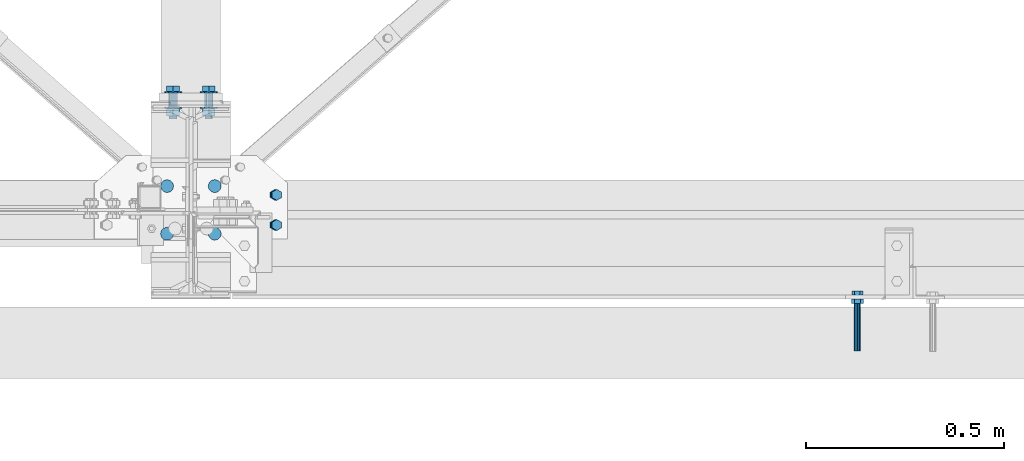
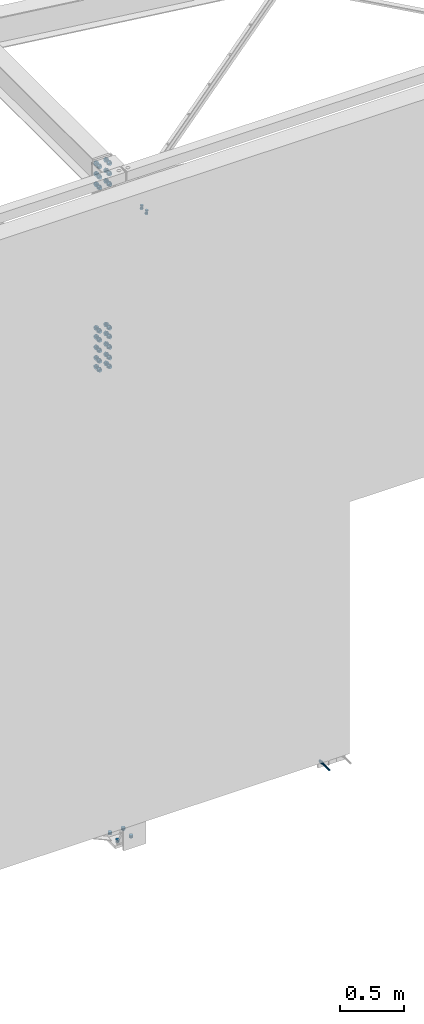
# One storey, part 125 of 3134: 5 mechanical fasteners, 4 elements without a shape of their own.
"""IFC2X3 building model written with IfcOpenShell, lengths in millimetres."""

from ifc_helpers import new_model, si_unit, frame, origin_with_axes, place, context, subcontext, project, spatial, faceted_brep, source, transform, mapped, material, type_object, element, aggregate, save


model = new_model("IFC2X3")

# Units and contexts
model_context = context("Model", 3, precision=1e-05, world=origin_with_axes())
body_context = subcontext(model_context, "Body", "Model", "MODEL_VIEW")
ifc_project = project(units=[si_unit("LENGTHUNIT", "METRE", prefix="MILLI"), si_unit("AREAUNIT", "SQUARE_METRE"), si_unit("VOLUMEUNIT", "CUBIC_METRE"), si_unit("MASSUNIT", "GRAM", prefix="KILO"), si_unit("TIMEUNIT", "SECOND"), si_unit("PLANEANGLEUNIT", "RADIAN"), si_unit("SOLIDANGLEUNIT", "STERADIAN"), si_unit("THERMODYNAMICTEMPERATUREUNIT", "DEGREE_CELSIUS"), si_unit("LUMINOUSINTENSITYUNIT", "LUMEN")], contexts=[model_context])

# Site, building, storey
site_placement = place(None, origin_with_axes())
site = spatial("IfcSite", under=ifc_project, at=site_placement, CompositionType="ELEMENT")
building_placement = place(site_placement, origin_with_axes())
building = spatial("IfcBuilding", under=site, at=building_placement, Name="Undefined", CompositionType="ELEMENT")
storey_placement = place(building_placement, origin_with_axes())
storey = spatial("IfcBuildingStorey", under=building, at=storey_placement, Name="Undefined", CompositionType="ELEMENT", Elevation=0.0)

# Assembly, mechanical fastener
assembly_1_placement = place(storey_placement, origin_with_axes())
assembly_1 = element("IfcElementAssembly", 1, at=assembly_1_placement, inside=storey, Name="UPN180", AssemblyPlace="NOTDEFINED", PredefinedType="RIGID_FRAME")
ifc_material_1 = material(Name="HILTI-HSA")
mechanical_fastener_type = type_object("IfcMechanicalFastenerType", Name="Bolt assembly")
shared_shape_1 = source(origin_with_axes(), body_context, "Body", "Brep", [
    faceted_brep([(13.856406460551, -20.56, 0.0), (6.92820323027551, -20.56, 12.0), (-6.92820323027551, -20.56, 12.0), (-13.856406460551, -20.56, 1.69692038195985e-15), (-6.92820323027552, -20.56, -12.0), (6.9282032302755, -20.56, -12.0), (6.9282032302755, -10.0, -12.0), (-6.92820323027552, -10.0, -12.0), (-13.856406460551, -10.0, 1.69692038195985e-15), (-6.92820323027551, -10.0, 12.0), (6.92820323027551, -10.0, 12.0), (13.856406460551, -10.0, 0.0), (8.0, -10.0, 0.0), (6.92820323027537, -10.0, 4.00000000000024), (3.99999999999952, -10.0, 6.92820323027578), (-8.29068785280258e-13, -10.0, 8.0), (-4.00000000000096, -10.0, 6.92820323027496), (-6.9282032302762, -10.0, 3.99999999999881), (-8.0, -10.0, -1.65813757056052e-12), (-6.92820323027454, -10.0, -4.00000000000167), (-3.99999999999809, -10.0, -6.92820323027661), (2.47832457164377e-12, -10.0, -8.0), (4.00000000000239, -10.0, -6.92820323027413), (6.92820323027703, -10.0, -3.99999999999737), (6.92820323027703, 130.0, -3.99999999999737), (4.00000000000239, 130.0, -6.92820323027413), (2.47832457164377e-12, 130.0, -8.0), (-3.99999999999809, 130.0, -6.92820323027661), (-6.92820323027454, 130.0, -4.00000000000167), (-8.0, 130.0, -1.65813757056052e-12), (-6.9282032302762, 130.0, 3.99999999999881), (-4.00000000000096, 130.0, 6.92820323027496), (-8.29068785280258e-13, 130.0, 8.0), (3.99999999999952, 130.0, 6.92820323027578), (6.92820323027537, 130.0, 4.00000000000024), (8.0, 130.0, 0.0), (15.3344231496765, 7.105427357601e-15, 0.0), (7.66721157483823, 7.105427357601e-15, 13.28), (-7.66721157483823, 7.105427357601e-15, 13.28), (-15.3344231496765, 7.105427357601e-15, 1.87792522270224e-15), (-7.66721157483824, 7.105427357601e-15, -13.28), (7.66721157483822, 7.105427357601e-15, -13.28), (7.66721157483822, 10.56, -13.28), (-7.66721157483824, 10.56, -13.28), (-15.3344231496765, 10.56, 1.87792522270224e-15), (-7.66721157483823, 10.56, 13.28), (7.66721157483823, 10.56, 13.28), (15.3344231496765, 10.56, 0.0)], [[[0, 1, 2, 3, 4, 5]], [[6, 7, 8, 9, 10, 11]], [[0, 11, 10, 1]], [[1, 10, 9, 2]], [[2, 9, 8, 3]], [[3, 8, 7, 4]], [[4, 7, 6, 5]], [[5, 6, 11, 0]], [[12, 13, 14, 15, 16, 17, 18, 19, 20, 21, 22, 23]], [[24, 25, 26, 27, 28, 29, 30, 31, 32, 33, 34, 35]], [[12, 35, 34, 13]], [[13, 34, 33, 14]], [[14, 33, 32, 15]], [[15, 32, 31, 16]], [[16, 31, 30, 17]], [[17, 30, 29, 18]], [[18, 29, 28, 19]], [[19, 28, 27, 20]], [[20, 27, 26, 21]], [[21, 26, 25, 22]], [[22, 25, 24, 23]], [[23, 24, 35, 12]], [[36, 37, 38, 39, 40, 41]], [[42, 43, 44, 45, 46, 47]], [[36, 47, 46, 37]], [[37, 46, 45, 38]], [[38, 45, 44, 39]], [[39, 44, 43, 40]], [[40, 43, 42, 41]], [[41, 42, 47, 36]]]),
    faceted_brep([(9.0, -10.0, 0.0), (7.79422863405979, -10.0, 4.50000000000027), (4.49999999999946, -10.0, 7.79422863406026), (-9.3270238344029e-13, -10.0, 9.0), (-4.50000000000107, -10.0, 7.79422863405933), (-7.79422863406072, -10.0, 4.49999999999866), (-9.0, -10.0, -1.86540476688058e-12), (-7.79422863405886, -10.0, -4.50000000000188), (-4.49999999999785, -10.0, -7.79422863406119), (2.78811514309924e-12, -10.0, -9.0), (4.50000000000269, -10.0, -7.7942286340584), (7.79422863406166, -10.0, -4.49999999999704), (7.79422863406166, 0.100000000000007, -4.49999999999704), (4.50000000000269, 0.100000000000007, -7.7942286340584), (2.78811514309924e-12, 0.100000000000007, -9.0), (-4.49999999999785, 0.100000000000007, -7.79422863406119), (-7.79422863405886, 0.100000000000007, -4.50000000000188), (-9.0, 0.100000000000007, -1.86540476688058e-12), (-7.79422863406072, 0.100000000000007, 4.49999999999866), (-4.50000000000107, 0.100000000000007, 7.79422863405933), (-9.3270238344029e-13, 0.100000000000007, 9.0), (4.49999999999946, 0.100000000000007, 7.79422863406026), (7.79422863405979, 0.100000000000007, 4.50000000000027), (9.0, 0.100000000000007, 0.0)], [[[0, 1, 2, 3, 4, 5, 6, 7, 8, 9, 10, 11]], [[12, 13, 14, 15, 16, 17, 18, 19, 20, 21, 22, 23]], [[0, 23, 22, 1]], [[1, 22, 21, 2]], [[2, 21, 20, 3]], [[3, 20, 19, 4]], [[4, 19, 18, 5]], [[5, 18, 17, 6]], [[6, 17, 16, 7]], [[7, 16, 15, 8]], [[8, 15, 14, 9]], [[9, 14, 13, 10]], [[10, 13, 12, 11]], [[11, 12, 23, 0]]]),
])
mechanical_fastener_1_placement = place(assembly_1_placement, frame((57555.0, -225.0, -150.0), z_axis=(0.0, 0.0, -1.0), x_axis=(1.0, 0.0, 0.0)))
mechanical_fastener_1 = element("IfcMechanicalFastener", 2, at=mechanical_fastener_1_placement, type_object=mechanical_fastener_type, material=ifc_material_1, Name="Bolt assembly", NominalDiameter=16.0, NominalLength=140.0, context=body_context, shape_type="MappedRepresentation", body=[
    mapped(shared_shape_1, transform((0.0, 0.0, 0.0))),
])
aggregate(assembly_1, [mechanical_fastener_1])

# Assembly, mechanical fasteners
assembly_2_placement = place(storey_placement, origin_with_axes())
assembly_2 = element("IfcElementAssembly", 3, at=assembly_2_placement, inside=storey, Name="300", AssemblyPlace="NOTDEFINED", PredefinedType="RIGID_FRAME")
ifc_material_2 = material(Name="HR10.9")
shared_shape_2 = source(origin_with_axes(), body_context, "Body", "Brep", [
    faceted_brep([(18.475208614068, -17.599999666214, 0.0), (9.23760430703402, -17.599999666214, 16.0), (-9.23760430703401, -17.599999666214, 16.0), (-18.475208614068, -17.599999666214, 2.2625605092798e-15), (-9.23760430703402, -17.599999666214, -16.0), (9.237604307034, -17.599999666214, -16.0), (9.237604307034, -3.70000004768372, -16.0), (-9.23760430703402, -3.70000004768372, -16.0), (-18.475208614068, -3.70000004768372, 2.2625605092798e-15), (-9.23760430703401, -3.70000004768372, 16.0), (9.23760430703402, -3.70000004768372, 16.0), (18.475208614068, -3.70000004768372, 0.0), (10.0, -3.70000004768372, 0.0), (8.66025403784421, -3.70000004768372, 5.0000000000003), (4.9999999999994, -3.70000004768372, 8.66025403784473), (-1.03633598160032e-12, -3.70000004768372, 10.0), (-5.00000000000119, -3.70000004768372, 8.6602540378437), (-8.66025403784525, -3.70000004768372, 4.99999999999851), (-10.0, -3.70000004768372, -2.07267196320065e-12), (-8.66025403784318, -3.70000004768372, -5.00000000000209), (-4.99999999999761, -3.70000004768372, -8.66025403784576), (3.09790571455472e-12, -3.70000004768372, -10.0), (5.00000000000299, -3.70000004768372, -8.66025403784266), (8.66025403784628, -3.70000004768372, -4.99999999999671), (8.66025403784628, 66.2999999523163, -4.99999999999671), (5.00000000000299, 66.2999999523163, -8.66025403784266), (3.09790571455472e-12, 66.2999999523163, -10.0), (-4.99999999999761, 66.2999999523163, -8.66025403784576), (-8.66025403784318, 66.2999999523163, -5.00000000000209), (-10.0, 66.2999999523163, -2.07267196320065e-12), (-8.66025403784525, 66.2999999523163, 4.99999999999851), (-5.00000000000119, 66.2999999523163, 8.6602540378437), (-1.03633598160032e-12, 66.2999999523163, 10.0), (4.9999999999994, 66.2999999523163, 8.66025403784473), (8.66025403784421, 66.2999999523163, 5.0000000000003), (10.0, 66.2999999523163, 0.0), (22.0, -3.70000004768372, 0.0), (19.0525588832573, -3.70000004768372, 11.0000000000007), (10.9999999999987, -3.70000004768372, 19.0525588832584), (-2.27993915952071e-12, -3.70000004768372, 22.0), (-11.0000000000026, -3.70000004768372, 19.0525588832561), (-19.0525588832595, -3.70000004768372, 10.9999999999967), (-22.0, -3.70000004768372, -4.55987831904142e-12), (-19.052558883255, -3.70000004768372, -11.0000000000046), (-10.9999999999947, -3.70000004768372, -19.0525588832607), (6.81539257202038e-12, -3.70000004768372, -22.0), (11.0000000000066, -3.70000004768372, -19.0525588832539), (19.0525588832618, -3.70000004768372, -10.9999999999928), (19.0525588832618, 0.0, -10.9999999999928), (11.0000000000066, 0.0, -19.0525588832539), (6.81539257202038e-12, 0.0, -22.0), (-10.9999999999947, 0.0, -19.0525588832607), (-19.052558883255, 0.0, -11.0000000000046), (-22.0, 0.0, -4.55987831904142e-12), (-19.0525588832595, 0.0, 10.9999999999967), (-11.0000000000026, 0.0, 19.0525588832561), (-2.27993915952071e-12, 0.0, 22.0), (10.9999999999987, 0.0, 19.0525588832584), (19.0525588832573, 0.0, 11.0000000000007), (22.0, 0.0, 0.0), (22.0, 36.0, 0.0), (19.0525588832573, 36.0, 11.0000000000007), (10.9999999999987, 36.0, 19.0525588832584), (-2.27993915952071e-12, 36.0, 22.0), (-11.0000000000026, 36.0, 19.0525588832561), (-19.0525588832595, 36.0, 10.9999999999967), (-22.0, 36.0, -4.55987831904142e-12), (-19.052558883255, 36.0, -11.0000000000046), (-10.9999999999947, 36.0, -19.0525588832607), (6.81539257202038e-12, 36.0, -22.0), (11.0000000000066, 36.0, -19.0525588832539), (19.0525588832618, 36.0, -10.9999999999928), (19.0525588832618, 39.7000000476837, -10.9999999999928), (11.0000000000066, 39.7000000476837, -19.0525588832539), (6.81539257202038e-12, 39.7000000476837, -22.0), (-10.9999999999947, 39.7000000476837, -19.0525588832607), (-19.052558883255, 39.7000000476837, -11.0000000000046), (-22.0, 39.7000000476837, -4.55987831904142e-12), (-19.0525588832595, 39.7000000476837, 10.9999999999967), (-11.0000000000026, 39.7000000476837, 19.0525588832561), (-2.27993915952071e-12, 39.7000000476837, 22.0), (10.9999999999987, 39.7000000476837, 19.0525588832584), (19.0525588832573, 39.7000000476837, 11.0000000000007), (22.0, 39.7000000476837, 0.0), (18.475208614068, 39.7000000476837, 0.0), (9.23760430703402, 39.7000000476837, 16.0), (-9.23760430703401, 39.7000000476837, 16.0), (-18.475208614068, 39.7000000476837, 2.2625605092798e-15), (-9.23760430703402, 39.7000000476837, -16.0), (9.237604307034, 39.7000000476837, -16.0), (9.237604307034, 58.2499992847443, -16.0), (-9.23760430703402, 58.2499992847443, -16.0), (-18.475208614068, 58.2499992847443, 2.2625605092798e-15), (-9.23760430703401, 58.2499992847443, 16.0), (9.23760430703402, 58.2499992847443, 16.0), (18.475208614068, 58.2499992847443, 0.0)], [[[0, 1, 2, 3, 4, 5]], [[6, 7, 8, 9, 10, 11]], [[0, 11, 10, 1]], [[1, 10, 9, 2]], [[2, 9, 8, 3]], [[3, 8, 7, 4]], [[4, 7, 6, 5]], [[5, 6, 11, 0]], [[12, 13, 14, 15, 16, 17, 18, 19, 20, 21, 22, 23]], [[24, 25, 26, 27, 28, 29, 30, 31, 32, 33, 34, 35]], [[12, 35, 34, 13]], [[13, 34, 33, 14]], [[14, 33, 32, 15]], [[15, 32, 31, 16]], [[16, 31, 30, 17]], [[17, 30, 29, 18]], [[18, 29, 28, 19]], [[19, 28, 27, 20]], [[20, 27, 26, 21]], [[21, 26, 25, 22]], [[22, 25, 24, 23]], [[23, 24, 35, 12]], [[36, 37, 38, 39, 40, 41, 42, 43, 44, 45, 46, 47]], [[48, 49, 50, 51, 52, 53, 54, 55, 56, 57, 58, 59]], [[36, 59, 58, 37]], [[37, 58, 57, 38]], [[38, 57, 56, 39]], [[39, 56, 55, 40]], [[40, 55, 54, 41]], [[41, 54, 53, 42]], [[42, 53, 52, 43]], [[43, 52, 51, 44]], [[44, 51, 50, 45]], [[45, 50, 49, 46]], [[46, 49, 48, 47]], [[47, 48, 59, 36]], [[60, 61, 62, 63, 64, 65, 66, 67, 68, 69, 70, 71]], [[72, 73, 74, 75, 76, 77, 78, 79, 80, 81, 82, 83]], [[60, 83, 82, 61]], [[61, 82, 81, 62]], [[62, 81, 80, 63]], [[63, 80, 79, 64]], [[64, 79, 78, 65]], [[65, 78, 77, 66]], [[66, 77, 76, 67]], [[67, 76, 75, 68]], [[68, 75, 74, 69]], [[69, 74, 73, 70]], [[70, 73, 72, 71]], [[71, 72, 83, 60]], [[84, 85, 86, 87, 88, 89]], [[90, 91, 92, 93, 94, 95]], [[84, 95, 94, 85]], [[85, 94, 93, 86]], [[86, 93, 92, 87]], [[87, 92, 91, 88]], [[88, 91, 90, 89]], [[89, 90, 95, 84]]]),
    faceted_brep([(11.0, 19.9, 0.0), (9.52627944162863, 19.9, 5.50000000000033), (5.49999999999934, 19.9, 9.5262794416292), (-1.13996957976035e-12, 19.9, 11.0), (-5.50000000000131, 19.9, 9.52627944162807), (-9.52627944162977, 19.9, 5.49999999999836), (-11.0, 19.9, -2.27993915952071e-12), (-9.5262794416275, 19.9, -5.5000000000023), (-5.49999999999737, 19.9, -9.52627944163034), (3.40769628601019e-12, 19.9, -11.0), (5.50000000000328, 19.9, -9.52627944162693), (9.52627944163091, 19.9, -5.49999999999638), (9.52627944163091, 36.0, -5.49999999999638), (5.50000000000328, 36.0, -9.52627944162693), (3.40769628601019e-12, 36.0, -11.0), (-5.49999999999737, 36.0, -9.52627944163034), (-9.5262794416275, 36.0, -5.5000000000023), (-11.0, 36.0, -2.27993915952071e-12), (-9.52627944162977, 36.0, 5.49999999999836), (-5.50000000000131, 36.0, 9.52627944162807), (-1.13996957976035e-12, 36.0, 11.0), (5.49999999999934, 36.0, 9.5262794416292), (9.52627944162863, 36.0, 5.50000000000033), (11.0, 36.0, 0.0), (11.0, 0.0999999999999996, 0.0), (9.52627944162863, 0.0999999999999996, 5.50000000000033), (5.49999999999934, 0.0999999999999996, 9.5262794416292), (-1.13996957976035e-12, 0.0999999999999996, 11.0), (-5.50000000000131, 0.0999999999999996, 9.52627944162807), (-9.52627944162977, 0.0999999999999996, 5.49999999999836), (-11.0, 0.0999999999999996, -2.27993915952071e-12), (-9.5262794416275, 0.0999999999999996, -5.5000000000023), (-5.49999999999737, 0.0999999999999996, -9.52627944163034), (3.40769628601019e-12, 0.0999999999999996, -11.0), (5.50000000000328, 0.0999999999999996, -9.52627944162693), (9.52627944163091, 0.0999999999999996, -5.49999999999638), (9.52627944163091, 20.1, -5.49999999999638), (5.50000000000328, 20.1, -9.52627944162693), (3.40769628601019e-12, 20.1, -11.0), (-5.49999999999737, 20.1, -9.52627944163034), (-9.5262794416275, 20.1, -5.5000000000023), (-11.0, 20.1, -2.27993915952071e-12), (-9.52627944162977, 20.1, 5.49999999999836), (-5.50000000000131, 20.1, 9.52627944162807), (-1.13996957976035e-12, 20.1, 11.0), (5.49999999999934, 20.1, 9.5262794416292), (9.52627944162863, 20.1, 5.50000000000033), (11.0, 20.1, 0.0)], [[[0, 1, 2, 3, 4, 5, 6, 7, 8, 9, 10, 11]], [[12, 13, 14, 15, 16, 17, 18, 19, 20, 21, 22, 23]], [[0, 23, 22, 1]], [[1, 22, 21, 2]], [[2, 21, 20, 3]], [[3, 20, 19, 4]], [[4, 19, 18, 5]], [[5, 18, 17, 6]], [[6, 17, 16, 7]], [[7, 16, 15, 8]], [[8, 15, 14, 9]], [[9, 14, 13, 10]], [[10, 13, 12, 11]], [[11, 12, 23, 0]], [[24, 25, 26, 27, 28, 29, 30, 31, 32, 33, 34, 35]], [[36, 37, 38, 39, 40, 41, 42, 43, 44, 45, 46, 47]], [[24, 47, 46, 25]], [[25, 46, 45, 26]], [[26, 45, 44, 27]], [[27, 44, 43, 28]], [[28, 43, 42, 29]], [[29, 42, 41, 30]], [[30, 41, 40, 31]], [[31, 40, 39, 32]], [[32, 39, 38, 33]], [[33, 38, 37, 34]], [[34, 37, 36, 35]], [[35, 36, 47, 24]]]),
])
mechanical_fastener_2_placement = place(assembly_2_placement, frame((55875.0, 295.0, 5841.5), z_axis=(-1.0, 0.0, 0.0), x_axis=(0.0, 0.0, -1.0)))
mechanical_fastener_2 = element("IfcMechanicalFastener", 4, at=mechanical_fastener_2_placement, type_object=mechanical_fastener_type, material=ifc_material_2, Name="Bolt assembly", NominalDiameter=20.0, NominalLength=70.0, context=body_context, shape_type="MappedRepresentation", body=[
    mapped(shared_shape_2, transform((0.0, 0.0, -45.0))),
    mapped(shared_shape_2, transform((100.0, 0.0, -45.0))),
    mapped(shared_shape_2, transform((200.0, 0.0, -45.0))),
    mapped(shared_shape_2, transform((0.0, 0.0, 45.0))),
    mapped(shared_shape_2, transform((100.0, 0.0, 45.0))),
    mapped(shared_shape_2, transform((200.0, 0.0, 45.0))),
])
mechanical_fastener_3_placement = place(assembly_2_placement, frame((55875.0, 295.0, 4273.5), z_axis=(-1.0, 0.0, 0.0), x_axis=(0.0, 0.0, -1.0)))
mechanical_fastener_3 = element("IfcMechanicalFastener", 5, at=mechanical_fastener_3_placement, type_object=mechanical_fastener_type, material=ifc_material_2, Name="Bolt assembly", NominalDiameter=20.0, NominalLength=70.0, context=body_context, shape_type="MappedRepresentation", body=[
    mapped(shared_shape_2, transform((0.0, 0.0, -45.0))),
    mapped(shared_shape_2, transform((85.0, 0.0, -45.0))),
    mapped(shared_shape_2, transform((185.0, 0.0, -45.0))),
    mapped(shared_shape_2, transform((285.0, 0.0, -45.0))),
    mapped(shared_shape_2, transform((370.0, 0.0, -45.0))),
    mapped(shared_shape_2, transform((0.0, 0.0, 45.0))),
    mapped(shared_shape_2, transform((85.0, 0.0, 45.0))),
    mapped(shared_shape_2, transform((185.0, 0.0, 45.0))),
    mapped(shared_shape_2, transform((285.0, 0.0, 45.0))),
    mapped(shared_shape_2, transform((370.0, 0.0, 45.0))),
])
aggregate(assembly_2, [mechanical_fastener_2, mechanical_fastener_3])

# Assembly, mechanical fastener
assembly_3_placement = place(storey_placement, origin_with_axes())
assembly_3 = element("IfcElementAssembly", 6, at=assembly_3_placement, inside=storey, Name="300", AssemblyPlace="NOTDEFINED", PredefinedType="RIGID_FRAME")
ifc_material_3 = material(Name="8.8")
shared_shape_3 = source(origin_with_axes(), body_context, "Body", "Brep", [
    faceted_brep([(13.856406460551, -19.1964928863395, 0.0), (6.92820323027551, -19.1964928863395, 12.0), (-6.92820323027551, -19.1964928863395, 12.0), (-13.856406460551, -19.1964928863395, 1.69692038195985e-15), (-6.92820323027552, -19.1964928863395, -12.0), (6.9282032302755, -19.1964928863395, -12.0), (6.9282032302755, -9.19649288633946, -12.0), (-6.92820323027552, -9.19649288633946, -12.0), (-13.856406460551, -9.19649288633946, 1.69692038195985e-15), (-6.92820323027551, -9.19649288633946, 12.0), (6.92820323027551, -9.19649288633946, 12.0), (13.856406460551, -9.19649288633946, 0.0), (8.0, -9.19649288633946, 0.0), (6.92820323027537, -9.19649288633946, 4.00000000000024), (3.99999999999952, -9.19649288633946, 6.92820323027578), (-8.29068785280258e-13, -9.19649288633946, 8.0), (-4.00000000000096, -9.19649288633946, 6.92820323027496), (-6.9282032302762, -9.19649288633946, 3.99999999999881), (-8.0, -9.19649288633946, -1.65813757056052e-12), (-6.92820323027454, -9.19649288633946, -4.00000000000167), (-3.99999999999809, -9.19649288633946, -6.92820323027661), (2.47832457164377e-12, -9.19649288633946, -8.0), (4.00000000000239, -9.19649288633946, -6.92820323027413), (6.92820323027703, -9.19649288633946, -3.99999999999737), (6.92820323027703, 25.8035071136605, -3.99999999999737), (4.00000000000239, 25.8035071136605, -6.92820323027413), (2.47832457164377e-12, 25.8035071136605, -8.0), (-3.99999999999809, 25.8035071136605, -6.92820323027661), (-6.92820323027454, 25.8035071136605, -4.00000000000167), (-8.0, 25.8035071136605, -1.65813757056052e-12), (-6.9282032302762, 25.8035071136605, 3.99999999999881), (-4.00000000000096, 25.8035071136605, 6.92820323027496), (-8.29068785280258e-13, 25.8035071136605, 8.0), (3.99999999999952, 25.8035071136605, 6.92820323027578), (6.92820323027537, 25.8035071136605, 4.00000000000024), (8.0, 25.8035071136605, 0.0), (13.856406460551, 8.00313978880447, 0.0), (6.92820323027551, 8.00313978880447, 12.0), (-6.92820323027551, 8.00313978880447, 12.0), (-13.856406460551, 8.00313978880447, 1.69692038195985e-15), (-6.92820323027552, 8.00313978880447, -12.0), (6.9282032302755, 8.00313978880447, -12.0), (6.9282032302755, 21.0031397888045, -12.0), (-6.92820323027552, 21.0031397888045, -12.0), (-13.856406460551, 21.0031397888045, 1.69692038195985e-15), (-6.92820323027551, 21.0031397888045, 12.0), (6.92820323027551, 21.0031397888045, 12.0), (13.856406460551, 21.0031397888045, 0.0)], [[[0, 1, 2, 3, 4, 5]], [[6, 7, 8, 9, 10, 11]], [[0, 11, 10, 1]], [[1, 10, 9, 2]], [[2, 9, 8, 3]], [[3, 8, 7, 4]], [[4, 7, 6, 5]], [[5, 6, 11, 0]], [[12, 13, 14, 15, 16, 17, 18, 19, 20, 21, 22, 23]], [[24, 25, 26, 27, 28, 29, 30, 31, 32, 33, 34, 35]], [[12, 35, 34, 13]], [[13, 34, 33, 14]], [[14, 33, 32, 15]], [[15, 32, 31, 16]], [[16, 31, 30, 17]], [[17, 30, 29, 18]], [[18, 29, 28, 19]], [[19, 28, 27, 20]], [[20, 27, 26, 21]], [[21, 26, 25, 22]], [[22, 25, 24, 23]], [[23, 24, 35, 12]], [[36, 37, 38, 39, 40, 41]], [[42, 43, 44, 45, 46, 47]], [[36, 47, 46, 37]], [[37, 46, 45, 38]], [[38, 45, 44, 39]], [[39, 44, 43, 40]], [[40, 43, 42, 41]], [[41, 42, 47, 36]]]),
    faceted_brep([(9.0, -0.0968602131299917, 0.0), (7.79422863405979, -0.0968602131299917, 4.50000000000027), (4.49999999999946, -0.0968602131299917, 7.79422863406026), (-9.3270238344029e-13, -0.0968602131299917, 9.0), (-4.50000000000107, -0.0968602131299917, 7.79422863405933), (-7.79422863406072, -0.0968602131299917, 4.49999999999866), (-9.0, -0.0968602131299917, -1.86540476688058e-12), (-7.79422863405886, -0.0968602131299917, -4.50000000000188), (-4.49999999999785, -0.0968602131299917, -7.79422863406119), (2.78811514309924e-12, -0.0968602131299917, -9.0), (4.50000000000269, -0.0968602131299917, -7.7942286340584), (7.79422863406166, -0.0968602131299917, -4.49999999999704), (7.79422863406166, 8.00313978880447, -4.49999999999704), (4.50000000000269, 8.00313978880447, -7.7942286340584), (2.78811514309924e-12, 8.00313978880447, -9.0), (-4.49999999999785, 8.00313978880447, -7.79422863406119), (-7.79422863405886, 8.00313978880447, -4.50000000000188), (-9.0, 8.00313978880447, -1.86540476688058e-12), (-7.79422863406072, 8.00313978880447, 4.49999999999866), (-4.50000000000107, 8.00313978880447, 7.79422863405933), (-9.3270238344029e-13, 8.00313978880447, 9.0), (4.49999999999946, 8.00313978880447, 7.79422863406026), (7.79422863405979, 8.00313978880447, 4.50000000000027), (9.0, 8.00313978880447, 0.0), (9.0, -9.09649288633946, 0.0), (7.79422863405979, -9.09649288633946, 4.50000000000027), (4.49999999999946, -9.09649288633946, 7.79422863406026), (-9.3270238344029e-13, -9.09649288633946, 9.0), (-4.50000000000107, -9.09649288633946, 7.79422863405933), (-7.79422863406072, -9.09649288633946, 4.49999999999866), (-9.0, -9.09649288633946, -1.86540476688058e-12), (-7.79422863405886, -9.09649288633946, -4.50000000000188), (-4.49999999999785, -9.09649288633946, -7.79422863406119), (2.78811514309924e-12, -9.09649288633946, -9.0), (4.50000000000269, -9.09649288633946, -7.7942286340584), (7.79422863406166, -9.09649288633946, -4.49999999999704), (7.79422863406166, 0.103506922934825, -4.49999999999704), (4.50000000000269, 0.103506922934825, -7.7942286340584), (2.78811514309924e-12, 0.103506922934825, -9.0), (-4.49999999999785, 0.103506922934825, -7.79422863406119), (-7.79422863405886, 0.103506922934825, -4.50000000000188), (-9.0, 0.103506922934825, -1.86540476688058e-12), (-7.79422863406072, 0.103506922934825, 4.49999999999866), (-4.50000000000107, 0.103506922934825, 7.79422863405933), (-9.3270238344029e-13, 0.103506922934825, 9.0), (4.49999999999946, 0.103506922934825, 7.79422863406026), (7.79422863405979, 0.103506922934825, 4.50000000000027), (9.0, 0.103506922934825, 0.0)], [[[0, 1, 2, 3, 4, 5, 6, 7, 8, 9, 10, 11]], [[12, 13, 14, 15, 16, 17, 18, 19, 20, 21, 22, 23]], [[0, 23, 22, 1]], [[1, 22, 21, 2]], [[2, 21, 20, 3]], [[3, 20, 19, 4]], [[4, 19, 18, 5]], [[5, 18, 17, 6]], [[6, 17, 16, 7]], [[7, 16, 15, 8]], [[8, 15, 14, 9]], [[9, 14, 13, 10]], [[10, 13, 12, 11]], [[11, 12, 23, 0]], [[24, 25, 26, 27, 28, 29, 30, 31, 32, 33, 34, 35]], [[36, 37, 38, 39, 40, 41, 42, 43, 44, 45, 46, 47]], [[24, 47, 46, 25]], [[25, 46, 45, 26]], [[26, 45, 44, 27]], [[27, 44, 43, 28]], [[28, 43, 42, 29]], [[29, 42, 41, 30]], [[30, 41, 40, 31]], [[31, 40, 39, 32]], [[32, 39, 38, 33]], [[33, 38, 37, 34]], [[34, 37, 36, 35]], [[35, 36, 47, 24]]]),
])
mechanical_fastener_4_placement = place(assembly_3_placement, frame((56089.2248162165, 37.9995130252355, 5493.63063425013), z_axis=(0.992623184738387, 1.63108538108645e-05, -0.12124031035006), x_axis=(1.62000016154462e-05, -0.999999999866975, -1.90000018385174e-06)))
mechanical_fastener_4 = element("IfcMechanicalFastener", 7, at=mechanical_fastener_4_placement, type_object=mechanical_fastener_type, material=ifc_material_3, Name="Bolt assembly", NominalDiameter=16.0, NominalLength=35.0, context=body_context, shape_type="MappedRepresentation", body=[
    mapped(shared_shape_3, transform((0.0, 0.0, 0.0))),
    mapped(shared_shape_3, transform((76.0, 0.0, 0.0))),
])
aggregate(assembly_3, [mechanical_fastener_4])

assembly_4_placement = place(storey_placement, origin_with_axes())
assembly_4 = element("IfcElementAssembly", 8, at=assembly_4_placement, inside=storey, Name="IPE500", AssemblyPlace="NOTDEFINED", PredefinedType="RIGID_FRAME")
shared_shape_4 = source(origin_with_axes(), body_context, "Body", "Brep", [
    faceted_brep([(16.5, -25.0, 0.0), (14.289419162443, -25.0, 8.25000000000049), (8.24999999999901, -25.0, 14.2894191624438), (-1.70995436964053e-12, -25.0, 16.5), (-8.25000000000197, -25.0, 14.2894191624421), (-14.2894191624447, -25.0, 8.24999999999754), (-16.5, -25.0, -3.41990873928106e-12), (-14.2894191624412, -25.0, -8.25000000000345), (-8.24999999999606, -25.0, -14.2894191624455), (5.11154442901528e-12, -25.0, -16.5), (8.25000000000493, -25.0, -14.2894191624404), (14.2894191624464, -25.0, -8.24999999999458), (14.2894191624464, 0.1, -8.24999999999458), (8.25000000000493, 0.1, -14.2894191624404), (5.11154442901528e-12, 0.1, -16.5), (-8.24999999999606, 0.1, -14.2894191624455), (-14.2894191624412, 0.1, -8.25000000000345), (-16.5, 0.1, -3.41990873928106e-12), (-14.2894191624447, 0.1, 8.24999999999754), (-8.25000000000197, 0.1, 14.2894191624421), (-1.70995436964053e-12, 0.1, 16.5), (8.24999999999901, 0.1, 14.2894191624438), (14.289419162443, 0.1, 8.25000000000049), (16.5, 0.1, 0.0)], [[[0, 1, 2, 3, 4, 5, 6, 7, 8, 9, 10, 11]], [[12, 13, 14, 15, 16, 17, 18, 19, 20, 21, 22, 23]], [[0, 23, 22, 1]], [[1, 22, 21, 2]], [[2, 21, 20, 3]], [[3, 20, 19, 4]], [[4, 19, 18, 5]], [[5, 18, 17, 6]], [[6, 17, 16, 7]], [[7, 16, 15, 8]], [[8, 15, 14, 9]], [[9, 14, 13, 10]], [[10, 13, 12, 11]], [[11, 12, 23, 0]]]),
])
mechanical_fastener_5_placement = place(assembly_4_placement, frame((55875.0, -200.0, -375.0), z_axis=(1.0, 0.0, 0.0), x_axis=(0.0, 1.0, 0.0)))
mechanical_fastener_5 = element("IfcMechanicalFastener", 9, at=mechanical_fastener_5_placement, type_object=mechanical_fastener_type, material=ifc_material_3, Name="Bolt assembly", NominalDiameter=30.0, NominalLength=25.0, context=body_context, shape_type="MappedRepresentation", body=[
    mapped(shared_shape_4, transform((140.0, 0.0, -60.0))),
    mapped(shared_shape_4, transform((140.0, 0.0, 60.0))),
    mapped(shared_shape_4, transform((260.0, 0.0, -60.0))),
    mapped(shared_shape_4, transform((260.0, 0.0, 60.0))),
])
aggregate(assembly_4, [mechanical_fastener_5])

save(model, "model.ifc")
